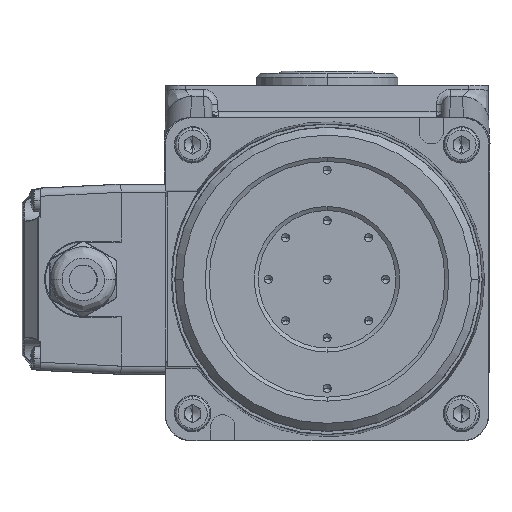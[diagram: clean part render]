
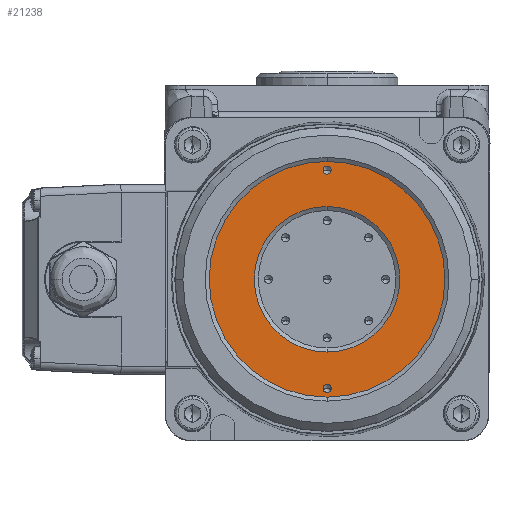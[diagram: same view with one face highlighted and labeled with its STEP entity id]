
A CAD part, front view. The second image highlights one B-rep face of the part: STEP entity #21238.
In plain terms, the highlighted planar face has unit normal (0, -1, 0) as drawn and (0, 1, 0) by its records, which use the part's own axes.
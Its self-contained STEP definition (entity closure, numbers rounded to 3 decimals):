
#161 = DIRECTION ( 'NONE',  ( 0., -1., 0. ) ) ;
#2264 = DIRECTION ( 'NONE',  ( 0., -1., 0. ) ) ;
#2475 = CARTESIAN_POINT ( 'NONE',  ( 0., 78.75, -18. ) ) ;
#4480 = EDGE_LOOP ( 'NONE', ( #40844, #14857 ) ) ;
#5033 = AXIS2_PLACEMENT_3D ( 'NONE', #78782, #38760, #85428 ) ;
#5334 = AXIS2_PLACEMENT_3D ( 'NONE', #42174, #2264, #48872 ) ;
#5471 = CARTESIAN_POINT ( 'NONE',  ( -27., 78.75, 1. ) ) ;
#5892 = CARTESIAN_POINT ( 'NONE',  ( 0., 78.75, 0. ) ) ;
#6123 = EDGE_CURVE ( 'NONE', #54826, #44926, #33934, .T. ) ;
#7436 = EDGE_LOOP ( 'NONE', ( #16240, #25005 ) ) ;
#7558 = EDGE_CURVE ( 'NONE', #84028, #18878, #63133, .T. ) ;
#9993 = CIRCLE ( 'NONE', #75917, 18. ) ;
#11851 = AXIS2_PLACEMENT_3D ( 'NONE', #13104, #59690, #19787 ) ;
#12040 = FACE_BOUND ( 'NONE', #4480, .T. ) ;
#12385 = CARTESIAN_POINT ( 'NONE',  ( 0., 78.75, 0. ) ) ;
#12633 = AXIS2_PLACEMENT_3D ( 'NONE', #40036, #161, #46794 ) ;
#12637 = DIRECTION ( 'NONE',  ( 0., 0., 1. ) ) ;
#13104 = CARTESIAN_POINT ( 'NONE',  ( 27., 78.75, 0. ) ) ;
#13729 = CARTESIAN_POINT ( 'NONE',  ( -27., 78.75, 0. ) ) ;
#14507 = CARTESIAN_POINT ( 'NONE',  ( 0., 78.75, 0. ) ) ;
#14857 = ORIENTED_EDGE ( 'NONE', *, *, #71618, .T. ) ;
#16240 = ORIENTED_EDGE ( 'NONE', *, *, #6123, .T. ) ;
#18878 = VERTEX_POINT ( 'NONE', #79576 ) ;
#19059 = DIRECTION ( 'NONE',  ( 0., 0., -1. ) ) ;
#19424 = CARTESIAN_POINT ( 'NONE',  ( 0., 78.75, 0. ) ) ;
#19787 = DIRECTION ( 'NONE',  ( 0., 0., 1. ) ) ;
#20436 = DIRECTION ( 'NONE',  ( 0., 0., 1. ) ) ;
#20587 = EDGE_CURVE ( 'NONE', #29060, #67313, #85883, .T. ) ;
#21238 = ADVANCED_FACE ( 'NONE', ( #64380, #52204, #12040, #73360 ), #74041, .T. ) ;
#25005 = ORIENTED_EDGE ( 'NONE', *, *, #31511, .T. ) ;
#26127 = DIRECTION ( 'NONE',  ( 0., 0., -1. ) ) ;
#27872 = DIRECTION ( 'NONE',  ( 0., 0., 1. ) ) ;
#29060 = VERTEX_POINT ( 'NONE', #44221 ) ;
#31511 = EDGE_CURVE ( 'NONE', #44926, #54826, #46815, .T. ) ;
#31574 = VERTEX_POINT ( 'NONE', #2475 ) ;
#33472 = EDGE_LOOP ( 'NONE', ( #42960, #49784 ) ) ;
#33934 = CIRCLE ( 'NONE', #12633, 1. ) ;
#38760 = DIRECTION ( 'NONE',  ( 0., -1., 0. ) ) ;
#39713 = EDGE_CURVE ( 'NONE', #67313, #29060, #78983, .T. ) ;
#40036 = CARTESIAN_POINT ( 'NONE',  ( -27., 78.75, 0. ) ) ;
#40844 = ORIENTED_EDGE ( 'NONE', *, *, #50427, .T. ) ;
#42174 = CARTESIAN_POINT ( 'NONE',  ( 0., 78.75, 0. ) ) ;
#42960 = ORIENTED_EDGE ( 'NONE', *, *, #39713, .F. ) ;
#44036 = EDGE_CURVE ( 'NONE', #18878, #84028, #78332, .T. ) ;
#44221 = CARTESIAN_POINT ( 'NONE',  ( 0., 78.75, 29.15 ) ) ;
#44926 = VERTEX_POINT ( 'NONE', #82669 ) ;
#46794 = DIRECTION ( 'NONE',  ( 0., 0., 1. ) ) ;
#46815 = CIRCLE ( 'NONE', #61491, 1. ) ;
#48872 = DIRECTION ( 'NONE',  ( 0., 0., 1. ) ) ;
#49784 = ORIENTED_EDGE ( 'NONE', *, *, #20587, .F. ) ;
#50427 = EDGE_CURVE ( 'NONE', #64796, #31574, #9993, .T. ) ;
#52204 = FACE_BOUND ( 'NONE', #7436, .T. ) ;
#52461 = DIRECTION ( 'NONE',  ( 0., -1., 0. ) ) ;
#54826 = VERTEX_POINT ( 'NONE', #5471 ) ;
#55184 = CIRCLE ( 'NONE', #5334, 18. ) ;
#56642 = ORIENTED_EDGE ( 'NONE', *, *, #44036, .T. ) ;
#58984 = DIRECTION ( 'NONE',  ( 0., -1., 0. ) ) ;
#59690 = DIRECTION ( 'NONE',  ( 0., -1., 0. ) ) ;
#60360 = DIRECTION ( 'NONE',  ( 0., -1., 0. ) ) ;
#61491 = AXIS2_PLACEMENT_3D ( 'NONE', #13729, #60360, #20436 ) ;
#63102 = AXIS2_PLACEMENT_3D ( 'NONE', #14507, #67840, #27872 ) ;
#63133 = CIRCLE ( 'NONE', #5033, 1. ) ;
#64380 = FACE_BOUND ( 'NONE', #82479, .T. ) ;
#64698 = ORIENTED_EDGE ( 'NONE', *, *, #7558, .T. ) ;
#64796 = VERTEX_POINT ( 'NONE', #85337 ) ;
#66075 = DIRECTION ( 'NONE',  ( 0., -1., 0. ) ) ;
#67313 = VERTEX_POINT ( 'NONE', #79622 ) ;
#67502 = CARTESIAN_POINT ( 'NONE',  ( 27., 78.75, 1. ) ) ;
#67840 = DIRECTION ( 'NONE',  ( 0., 1., 0. ) ) ;
#71618 = EDGE_CURVE ( 'NONE', #31574, #64796, #55184, .T. ) ;
#73360 = FACE_OUTER_BOUND ( 'NONE', #33472, .T. ) ;
#74041 = PLANE ( 'NONE',  #63102 ) ;
#75917 = AXIS2_PLACEMENT_3D ( 'NONE', #5892, #52461, #12637 ) ;
#78178 = AXIS2_PLACEMENT_3D ( 'NONE', #12385, #58984, #19059 ) ;
#78332 = CIRCLE ( 'NONE', #11851, 1. ) ;
#78782 = CARTESIAN_POINT ( 'NONE',  ( 27., 78.75, 0. ) ) ;
#78983 = CIRCLE ( 'NONE', #85323, 29.15 ) ;
#79576 = CARTESIAN_POINT ( 'NONE',  ( 27., 78.75, -1. ) ) ;
#79622 = CARTESIAN_POINT ( 'NONE',  ( 0., 78.75, -29.15 ) ) ;
#82479 = EDGE_LOOP ( 'NONE', ( #64698, #56642 ) ) ;
#82669 = CARTESIAN_POINT ( 'NONE',  ( -27., 78.75, -1. ) ) ;
#84028 = VERTEX_POINT ( 'NONE', #67502 ) ;
#85323 = AXIS2_PLACEMENT_3D ( 'NONE', #19424, #66075, #26127 ) ;
#85337 = CARTESIAN_POINT ( 'NONE',  ( 0., 78.75, 18. ) ) ;
#85428 = DIRECTION ( 'NONE',  ( 0., 0., 1. ) ) ;
#85883 = CIRCLE ( 'NONE', #78178, 29.15 ) ;
